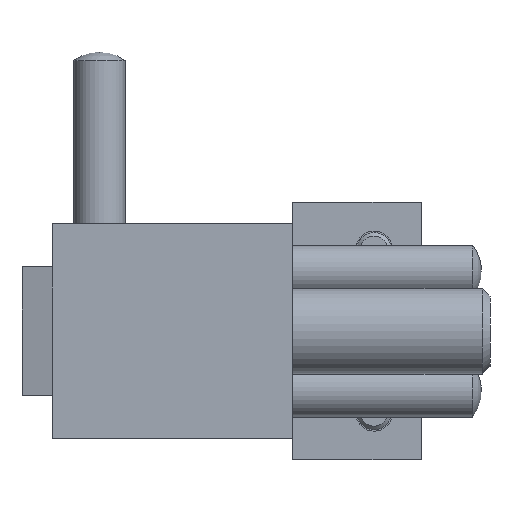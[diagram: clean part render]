
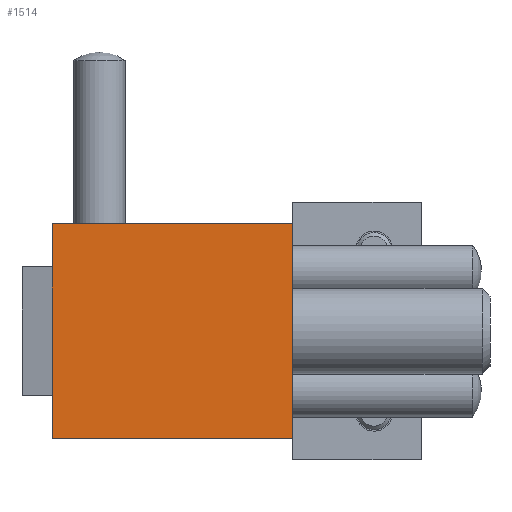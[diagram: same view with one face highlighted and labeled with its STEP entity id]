
A CAD part, left-side view. The second image highlights one B-rep face of the part: STEP entity #1514.
In plain terms, the highlighted planar face has unit normal (-1, 0, 0).
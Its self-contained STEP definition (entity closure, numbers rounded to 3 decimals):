
#177=ORIENTED_EDGE('',*,*,#549,.T.);
#178=ORIENTED_EDGE('',*,*,#550,.F.);
#179=ORIENTED_EDGE('',*,*,#551,.F.);
#180=ORIENTED_EDGE('',*,*,#552,.T.);
#549=EDGE_CURVE('',#735,#736,#875,.T.);
#550=EDGE_CURVE('',#737,#736,#876,.T.);
#551=EDGE_CURVE('',#738,#737,#877,.T.);
#552=EDGE_CURVE('',#738,#735,#878,.T.);
#735=VERTEX_POINT('',#2364);
#736=VERTEX_POINT('',#2365);
#737=VERTEX_POINT('',#2367);
#738=VERTEX_POINT('',#2369);
#875=LINE('',#2363,#1004);
#876=LINE('',#2366,#1005);
#877=LINE('',#2368,#1006);
#878=LINE('',#2370,#1007);
#1004=VECTOR('',#1896,1000.);
#1005=VECTOR('',#1897,1000.);
#1006=VECTOR('',#1898,1000.);
#1007=VECTOR('',#1899,1000.);
#1131=EDGE_LOOP('',(#177,#178,#179,#180));
#1290=FACE_BOUND('',#1131,.T.);
#1449=PLANE('',#1719);
#1514=ADVANCED_FACE('',(#1290),#1449,.F.);
#1719=AXIS2_PLACEMENT_3D('',#2362,#1894,#1895);
#1894=DIRECTION('',(1.,0.,0.));
#1895=DIRECTION('',(0.,0.,-1.));
#1896=DIRECTION('',(0.,-1.,0.));
#1897=DIRECTION('',(0.,0.,-1.));
#1898=DIRECTION('',(0.,-1.,0.));
#1899=DIRECTION('',(0.,0.,-1.));
#2362=CARTESIAN_POINT('',(0.,34.,12.5));
#2363=CARTESIAN_POINT('',(0.,34.,-12.5));
#2364=CARTESIAN_POINT('',(0.,34.,-12.5));
#2365=CARTESIAN_POINT('',(0.,6.,-12.5));
#2366=CARTESIAN_POINT('',(0.,6.,12.5));
#2367=CARTESIAN_POINT('',(0.,6.,12.5));
#2368=CARTESIAN_POINT('',(0.,34.,12.5));
#2369=CARTESIAN_POINT('',(0.,34.,12.5));
#2370=CARTESIAN_POINT('',(0.,34.,12.5));
